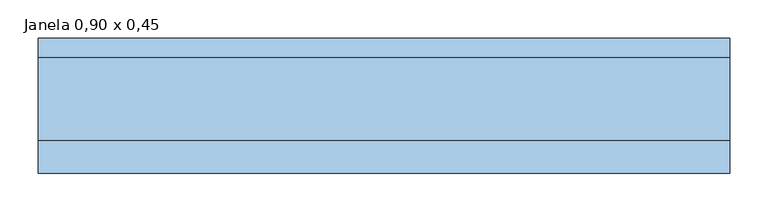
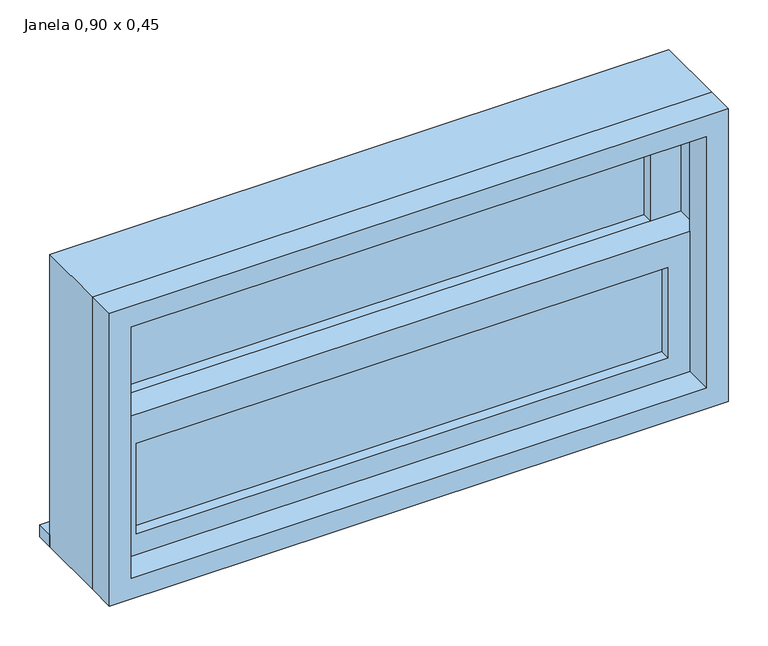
"""IFC4 building model written with IfcOpenShell, lengths in millimetres: window geometry, Janela Deslizar Foha Dupla : Janela 0,90 x 0,45."""

from ifc_helpers import new_model, si_unit, frame, origin, place, context, project, spatial, polyline, outline, extrude, source, transform, mapped, element, save


def janela_0_90_x_0_45_486027e7(model_context):
    return source(origin(), model_context, "Body", "SweptSolid", [
        extrude(outline(polyline([(-386.5, -4.375), (386.5, -4.375), (386.5, -17.075), (-386.5, -17.075), (-386.5, -4.375)])), frame((0.0, 0.0, 977.9), z_axis=(0.0, 0.0, 1.0), x_axis=(1.0, 0.0, 0.0)), (0.0, 0.0, 1.0), 139.275),
        extrude(outline(polyline([(1161.625, -430.95), (933.45, -430.95), (933.45, 430.95), (1161.625, 430.95), (1161.625, -430.95)]), holes=[polyline([(1117.175, -386.5), (1117.175, 386.5), (977.9, 386.5), (977.9, -386.5), (1117.175, -386.5)])]), frame((0.0, -32.95, 0.0), z_axis=(0.0, 1.0, 0.0), x_axis=(0.0, 0.0, 1.0)), (0.0, 0.0, 1.0), 44.45),
        extrude(outline(polyline([(-450.0, 100.4), (450.0, 100.4), (450.0, 75.0), (-450.0, 75.0), (-450.0, 100.4)])), frame((0.0, 0.0, 914.4), z_axis=(0.0, 0.0, 1.0), x_axis=(1.0, 0.0, 0.0)), (0.0, 0.0, 1.0), 19.05),
        extrude(outline(polyline([(386.5, 27.375), (-386.5, 27.375), (-386.5, 40.075), (386.5, 40.075), (386.5, 27.375)])), frame((0.0, 0.0, 1161.625), z_axis=(0.0, 0.0, 1.0), x_axis=(1.0, 0.0, 0.0)), (0.0, 0.0, 1.0), 139.275),
        extrude(outline(polyline([(1345.35, -430.95), (1117.175, -430.95), (1117.175, 430.95), (1345.35, 430.95), (1345.35, -430.95)]), holes=[polyline([(1300.9, -386.5), (1300.9, 386.5), (1161.625, 386.5), (1161.625, -386.5), (1300.9, -386.5)])]), frame((0.0, 11.5, 0.0), z_axis=(0.0, 1.0, 0.0), x_axis=(0.0, 0.0, 1.0)), (0.0, 0.0, 1.0), 44.45),
        extrude(outline(polyline([(1364.4, -450.0), (914.4, -450.0), (914.4, 450.0), (1364.4, 450.0), (1364.4, -450.0)]), holes=[polyline([(1332.65, -418.25), (1332.65, 418.25), (946.15, 418.25), (946.15, -418.25), (1332.65, -418.25)])]), frame((0.0, -75.0, 0.0), z_axis=(0.0, 1.0, 0.0), x_axis=(0.0, 0.0, 1.0)), (0.0, 0.0, 1.0), 42.05),
        extrude(outline(polyline([(1364.4, 450.0), (1364.4, -450.0), (914.4, -450.0), (914.4, 450.0), (1364.4, 450.0)]), holes=[polyline([(1345.35, 430.95), (933.45, 430.95), (933.45, -430.95), (1345.35, -430.95), (1345.35, 430.95)])]), frame((0.0, -32.95, 0.0), z_axis=(0.0, 1.0, 0.0), x_axis=(0.0, 0.0, 1.0)), (0.0, 0.0, 1.0), 107.95),
    ])


if __name__ == "__main__":
    model = new_model("IFC4")
    model_context = context("Model", 3, world=origin())
    ifc_project = project(units=[si_unit("LENGTHUNIT", "METRE", prefix="MILLI")], contexts=[model_context])
    site = spatial("IfcSite", under=ifc_project)
    building = spatial("IfcBuilding", under=site)
    placement = place(None, origin())
    janela_0_90_x_0_45_shape = janela_0_90_x_0_45_486027e7(model_context)
    element("IfcWindow", 1, ObjectType="Janela Deslizar Foha Dupla : Janela 0,90 x 0,45", at=placement, inside=building, context=model_context, shape_type="MappedRepresentation", body=[
        mapped(janela_0_90_x_0_45_shape, transform((0.0, 0.0, 0.0), x_axis=(1.0, 0.0, 0.0), y_axis=(0.0, 1.0, 0.0), z_axis=(0.0, 0.0, 1.0))),
    ])
    save(model, "model.ifc")
